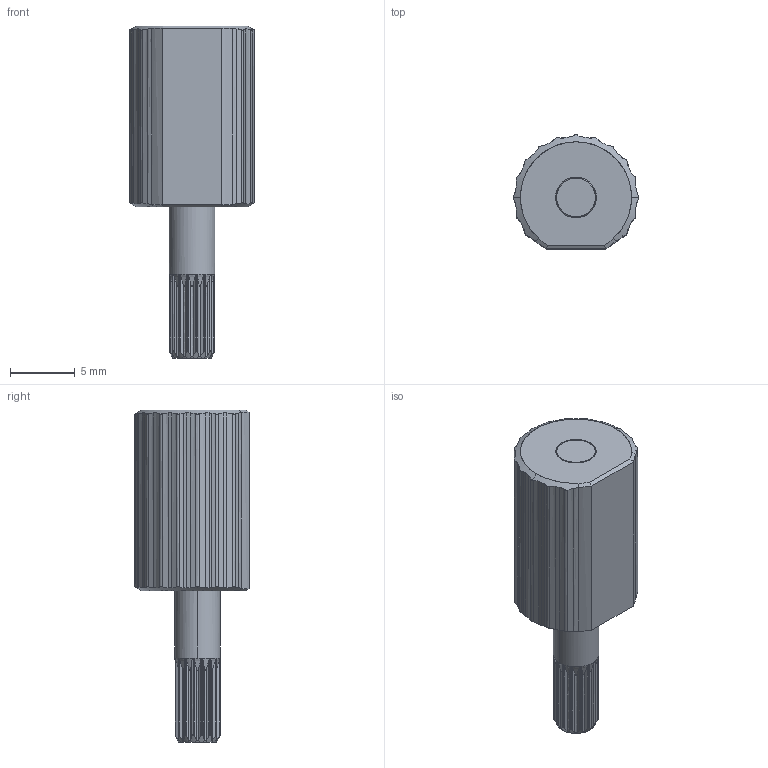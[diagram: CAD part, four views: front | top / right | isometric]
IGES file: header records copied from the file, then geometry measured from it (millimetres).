
Start section: SolidWorks IGES file using analytic representation for surfaces
Global section: file name: G:\RELEASED\83500\83560-XXX TI-300 Series\TI-320-X.XX-01.IGS; native system: SolidWorks 2013; preprocessor: SolidWorks 2013; author: hmanderson; date: 131002.102723; units: millimetre
Bounding box: 9.71 x 8.84 x 25.7 mm (x, y, z)
Surface area: 690.1 mm2 (no closed solid volume)
Topology: 0 solids, 0 shells, 205 faces, 1796 edges, 1796 vertices
Faces by surface type: revolution 158, bspline 47
